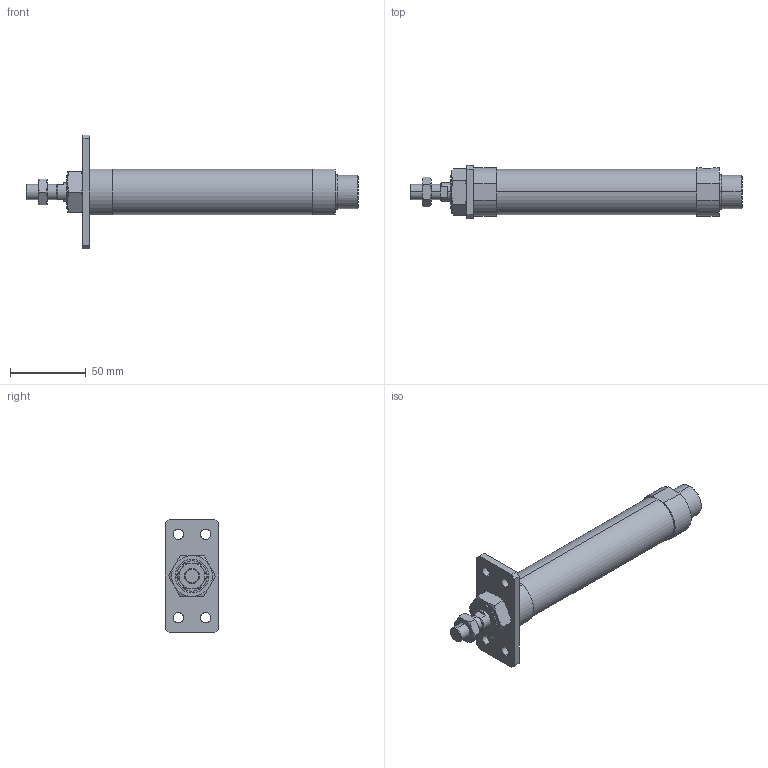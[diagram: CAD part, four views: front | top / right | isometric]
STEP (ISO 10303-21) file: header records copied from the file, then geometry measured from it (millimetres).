
FILE_DESCRIPTION (( 'STEP AP203' ), '1' );
FILE_NAME ('J#1-25-50-A.STEP', '2016-03-08T06:48:34', ( '' ), ( '' ), 'SwSTEP 2.0', 'SolidWorks 2014', '' );
FILE_SCHEMA (( 'CONFIG_CONTROL_DESIGN' ));
Length unit declared in the file: millimetre
Products named in the file (5): J#2-25-A; J#1-25-50-A; J#1-25-50
Assembly tree (4 placements, depth 2):
  J#1-25-50-A
    J#1-25-50
    (unnamed)
    (unnamed)
    J#2-25-A
Bounding box: 219 x 35 x 75 mm (x, y, z)
Volume: 142932.5 mm3; surface area: 29532.5 mm2
Topology: 4 solids, 4 shells, 113 faces, 258 edges, 157 vertices
Faces by surface type: plane 47, cylinder 34, torus 24, cone 8
Entity records: 3959 total; most frequent: CARTESIAN_POINT 907, DIRECTION 542, ORIENTED_EDGE 512, EDGE_CURVE 256, AXIS2_PLACEMENT_3D 220, VERTEX_POINT 157, EDGE_LOOP 133, FACE_OUTER_BOUND 113
